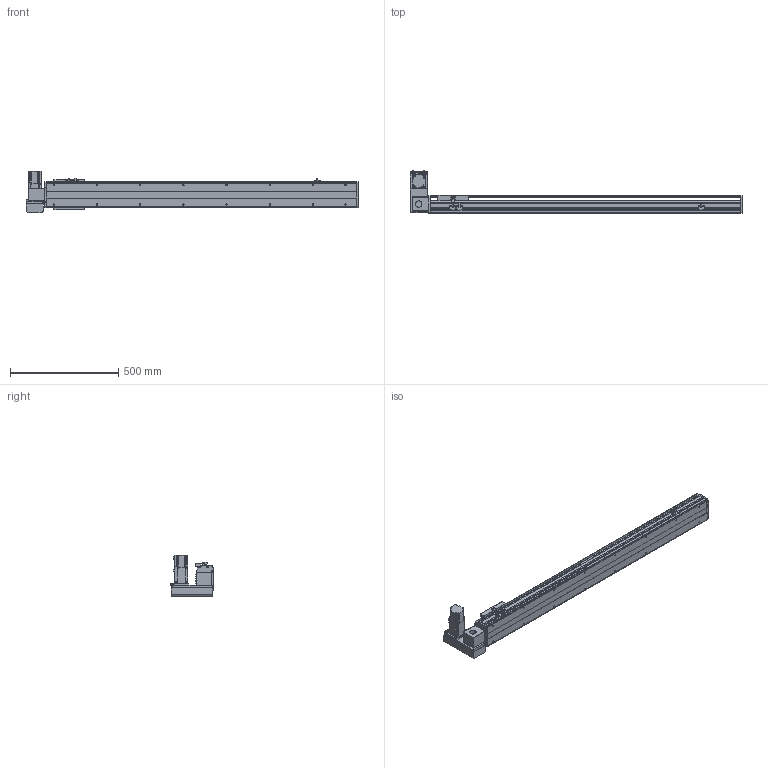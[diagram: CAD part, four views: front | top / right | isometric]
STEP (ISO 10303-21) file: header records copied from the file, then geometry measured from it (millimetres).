
FILE_DESCRIPTION( ( 'STEP AP214' ), '1' );
FILE_NAME( 'x:/temp/worker_27/temp/exporttempdir_6708_110_uMqlO/format_0/PBS120-P40-S1150-LU-T40-C1-N(0).stp', '2022-06-06T00:31:45', ( 'License CC BY-ND 4.0' ), ( 'CADENAS' ), ' ', 'PARTsolutions', ' ' );
FILE_SCHEMA( ( 'AUTOMOTIVE_DESIGN { 1 0 10303 214 1 1 1 1 }' ) );
Length unit declared in the file: millimetre
Products named in the file (7): PBS120-P40-S1150-LU-T40-C1-N(0); _PBS120-S1150()_body; _PBS120T-LU_motors; _T40-p1; _PBS120_sliser; _PBS120_plant; _PBS120_sensor
Assembly tree (8 placements, depth 2):
  PBS120-P40-S1150-LU-T40-C1-N(0)
    _PBS120-S1150()_body
    _PBS120T-LU_motors
    _T40-p1
    _PBS120_sliser
    _PBS120_plant
    _PBS120_sensor  x3
Bounding box: 1536 x 198 x 189.7 mm (x, y, z)
Volume: 6449538.8 mm3; surface area: 1271462.5 mm2
Topology: 8 solids, 8 shells, 828 faces, 2156 edges, 1387 vertices
Faces by surface type: plane 549, cylinder 229, cone 48, torus 2
Full cylindrical faces by diameter (mm): 2.459 x6, 3.242 x4, 4 x2, 4.134 x4, 4.5 x10, 4.917 x20, 5.5 x11, 6 x2, 6.6 x1, 7 x2, 8.5 x4, 9 x4, 12 x1, 14 x1, 30 x2, 40 x1, 50 x2
Entity records: 27324 total; most frequent: DIRECTION 3740, CARTESIAN_POINT 3677, ORIENTED_EDGE 3502, EDGE_CURVE 1751, AXIS2_PLACEMENT_3D 1256, LINE 1228, VECTOR 1228, VERTEX_POINT 1193
